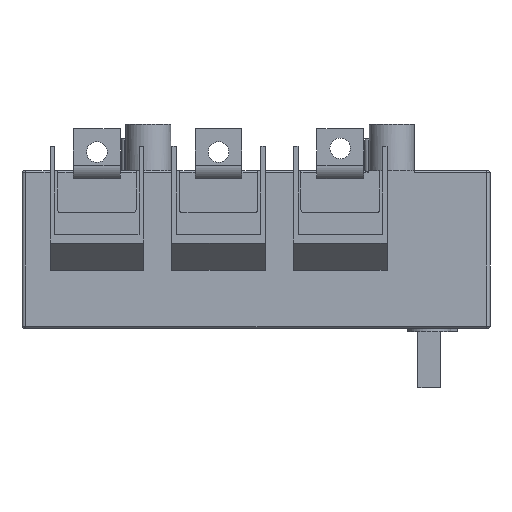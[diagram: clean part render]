
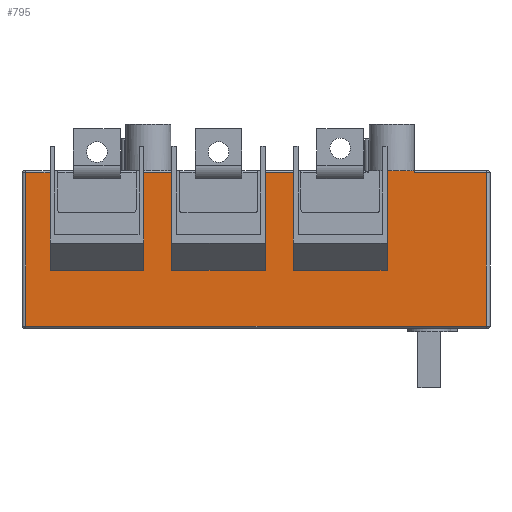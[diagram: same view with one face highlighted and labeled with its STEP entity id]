
A CAD part, front view. The second image highlights one B-rep face of the part: STEP entity #795.
In plain terms, the highlighted planar face has unit normal (0, -1, 0).
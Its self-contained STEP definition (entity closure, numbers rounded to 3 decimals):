
#297=PLANE('',#7752);
#795=ADVANCED_FACE('',(#1209),#297,.T.);
#1209=FACE_OUTER_BOUND('',#1648,.T.);
#1648=EDGE_LOOP('',(#5108,#5109,#5110,#5111,#5112,#5113,#5114,#5115,#5116,
#5117,#5118,#5119,#5120,#5121,#5122,#5123,#5124,#5125));
#1954=LINE('',#10454,#2723);
#1958=LINE('',#10462,#2727);
#1963=LINE('',#10471,#2732);
#2029=LINE('',#10615,#2798);
#2035=LINE('',#10627,#2804);
#2040=LINE('',#10636,#2809);
#2185=LINE('',#10957,#2954);
#2192=LINE('',#10971,#2961);
#2197=LINE('',#10980,#2966);
#2303=LINE('',#11385,#3072);
#2315=LINE('',#11418,#3084);
#2322=LINE('',#11488,#3091);
#2327=LINE('',#11505,#3096);
#2328=LINE('',#11507,#3097);
#2397=LINE('',#11797,#3166);
#2421=LINE('',#11853,#3190);
#2423=LINE('',#11857,#3192);
#2424=LINE('',#11858,#3193);
#2723=VECTOR('',#8382,1.);
#2727=VECTOR('',#8388,1.);
#2732=VECTOR('',#8395,1.);
#2798=VECTOR('',#8521,1.);
#2804=VECTOR('',#8529,1.);
#2809=VECTOR('',#8536,1.);
#2954=VECTOR('',#8817,1.);
#2961=VECTOR('',#8826,1.);
#2966=VECTOR('',#8833,1.);
#3072=VECTOR('',#9253,1.);
#3084=VECTOR('',#9291,1.);
#3091=VECTOR('',#9332,1.);
#3096=VECTOR('',#9355,1.);
#3097=VECTOR('',#9358,1.);
#3166=VECTOR('',#9641,1.);
#3190=VECTOR('',#9713,1.);
#3192=VECTOR('',#9719,1.);
#3193=VECTOR('',#9720,1.);
#5108=ORIENTED_EDGE('',*,*,#6250,.F.);
#5109=ORIENTED_EDGE('',*,*,#6245,.T.);
#5110=ORIENTED_EDGE('',*,*,#6712,.T.);
#5111=ORIENTED_EDGE('',*,*,#6492,.F.);
#5112=ORIENTED_EDGE('',*,*,#6504,.F.);
#5113=ORIENTED_EDGE('',*,*,#6499,.T.);
#5114=ORIENTED_EDGE('',*,*,#6903,.T.);
#5115=ORIENTED_EDGE('',*,*,#6742,.F.);
#5116=ORIENTED_EDGE('',*,*,#6732,.T.);
#5117=ORIENTED_EDGE('',*,*,#6741,.T.);
#5118=ORIENTED_EDGE('',*,*,#6692,.T.);
#5119=ORIENTED_EDGE('',*,*,#6871,.T.);
#5120=ORIENTED_EDGE('',*,*,#6901,.F.);
#5121=ORIENTED_EDGE('',*,*,#6321,.F.);
#5122=ORIENTED_EDGE('',*,*,#6332,.F.);
#5123=ORIENTED_EDGE('',*,*,#6327,.T.);
#5124=ORIENTED_EDGE('',*,*,#6904,.T.);
#5125=ORIENTED_EDGE('',*,*,#6241,.F.);
#5471=VERTEX_POINT('',#10453);
#5472=VERTEX_POINT('',#10455);
#5474=VERTEX_POINT('',#10461);
#5475=VERTEX_POINT('',#10463);
#5525=VERTEX_POINT('',#10614);
#5526=VERTEX_POINT('',#10616);
#5530=VERTEX_POINT('',#10626);
#5531=VERTEX_POINT('',#10628);
#5641=VERTEX_POINT('',#10956);
#5642=VERTEX_POINT('',#10958);
#5647=VERTEX_POINT('',#10970);
#5648=VERTEX_POINT('',#10972);
#5774=VERTEX_POINT('',#11363);
#5775=VERTEX_POINT('',#11383);
#5783=VERTEX_POINT('',#11410);
#5793=VERTEX_POINT('',#11443);
#5797=VERTEX_POINT('',#11485);
#5891=VERTEX_POINT('',#11796);
#6241=EDGE_CURVE('',#5471,#5472,#1954,.T.);
#6245=EDGE_CURVE('',#5475,#5474,#1958,.T.);
#6250=EDGE_CURVE('',#5475,#5471,#1963,.T.);
#6321=EDGE_CURVE('',#5525,#5526,#2029,.T.);
#6327=EDGE_CURVE('',#5531,#5530,#2035,.T.);
#6332=EDGE_CURVE('',#5531,#5525,#2040,.T.);
#6492=EDGE_CURVE('',#5641,#5642,#2185,.T.);
#6499=EDGE_CURVE('',#5648,#5647,#2192,.T.);
#6504=EDGE_CURVE('',#5648,#5641,#2197,.T.);
#6692=EDGE_CURVE('',#5774,#5775,#2303,.T.);
#6712=EDGE_CURVE('',#5474,#5642,#2315,.T.);
#6732=EDGE_CURVE('',#5797,#5793,#2322,.T.);
#6741=EDGE_CURVE('',#5793,#5774,#2327,.T.);
#6742=EDGE_CURVE('',#5797,#5783,#2328,.T.);
#6871=EDGE_CURVE('',#5775,#5891,#2397,.T.);
#6901=EDGE_CURVE('',#5526,#5891,#2421,.T.);
#6903=EDGE_CURVE('',#5647,#5783,#2423,.T.);
#6904=EDGE_CURVE('',#5530,#5472,#2424,.T.);
#7752=AXIS2_PLACEMENT_3D('',#11859,#9721,#9722);
#8382=DIRECTION('',(0.,0.,1.));
#8388=DIRECTION('',(0.,0.,1.));
#8395=DIRECTION('',(1.,0.,0.));
#8521=DIRECTION('',(0.,0.,1.));
#8529=DIRECTION('',(0.,0.,1.));
#8536=DIRECTION('',(1.,0.,0.));
#8817=DIRECTION('',(0.,0.,1.));
#8826=DIRECTION('',(0.,0.,1.));
#8833=DIRECTION('',(1.,0.,0.));
#9253=DIRECTION('',(-1.,0.,0.));
#9291=DIRECTION('',(-1.,0.,0.));
#9332=DIRECTION('',(1.,0.,0.));
#9355=DIRECTION('',(0.,0.,1.));
#9358=DIRECTION('',(0.,0.,1.));
#9641=DIRECTION('',(0.,0.,1.));
#9713=DIRECTION('',(1.,0.,0.));
#9719=DIRECTION('',(-1.,0.,0.));
#9720=DIRECTION('',(-1.,0.,0.));
#9721=DIRECTION('',(0.,-1.,0.));
#9722=DIRECTION('',(1.,0.,0.));
#10453=CARTESIAN_POINT('',(-67.5,-52.5,-53.));
#10454=CARTESIAN_POINT('',(-67.5,-52.5,-53.));
#10455=CARTESIAN_POINT('',(-67.5,-52.5,-1.));
#10461=CARTESIAN_POINT('',(-117.5,-52.5,-1.));
#10462=CARTESIAN_POINT('',(-117.5,-52.5,-53.));
#10463=CARTESIAN_POINT('',(-117.5,-52.5,-53.));
#10471=CARTESIAN_POINT('',(-117.5,-52.5,-53.));
#10614=CARTESIAN_POINT('',(-2.5,-52.5,-53.));
#10615=CARTESIAN_POINT('',(-2.5,-52.5,-53.));
#10616=CARTESIAN_POINT('',(-2.5,-52.5,0.));
#10626=CARTESIAN_POINT('',(-52.5,-52.5,-1.));
#10627=CARTESIAN_POINT('',(-52.5,-52.5,-53.));
#10628=CARTESIAN_POINT('',(-52.5,-52.5,-53.));
#10636=CARTESIAN_POINT('',(-52.5,-52.5,-53.));
#10956=CARTESIAN_POINT('',(-132.5,-52.5,-53.));
#10957=CARTESIAN_POINT('',(-132.5,-52.5,-53.));
#10958=CARTESIAN_POINT('',(-132.5,-52.5,-1.));
#10970=CARTESIAN_POINT('',(-182.5,-52.5,-1.));
#10971=CARTESIAN_POINT('',(-182.5,-52.5,-53.));
#10972=CARTESIAN_POINT('',(-182.5,-52.5,-53.));
#10980=CARTESIAN_POINT('',(-182.5,-52.5,-53.));
#11363=CARTESIAN_POINT('',(50.5,-52.5,-1.));
#11383=CARTESIAN_POINT('',(12.,-52.5,-1.));
#11385=CARTESIAN_POINT('',(12.,-52.5,-1.));
#11410=CARTESIAN_POINT('',(-195.5,-52.5,-1.));
#11418=CARTESIAN_POINT('',(-195.5,-52.5,-1.));
#11443=CARTESIAN_POINT('',(50.5,-52.5,-83.));
#11485=CARTESIAN_POINT('',(-195.5,-52.5,-83.));
#11488=CARTESIAN_POINT('',(-12.,-52.5,-83.));
#11505=CARTESIAN_POINT('',(50.5,-52.5,-84.));
#11507=CARTESIAN_POINT('',(-195.5,-52.5,-84.));
#11796=CARTESIAN_POINT('',(12.,-52.5,0.));
#11797=CARTESIAN_POINT('',(12.,-52.5,4.));
#11853=CARTESIAN_POINT('',(50.5,-52.5,0.));
#11857=CARTESIAN_POINT('',(-195.5,-52.5,-1.));
#11858=CARTESIAN_POINT('',(-195.5,-52.5,-1.));
#11859=CARTESIAN_POINT('',(-12.,-52.5,4.));
